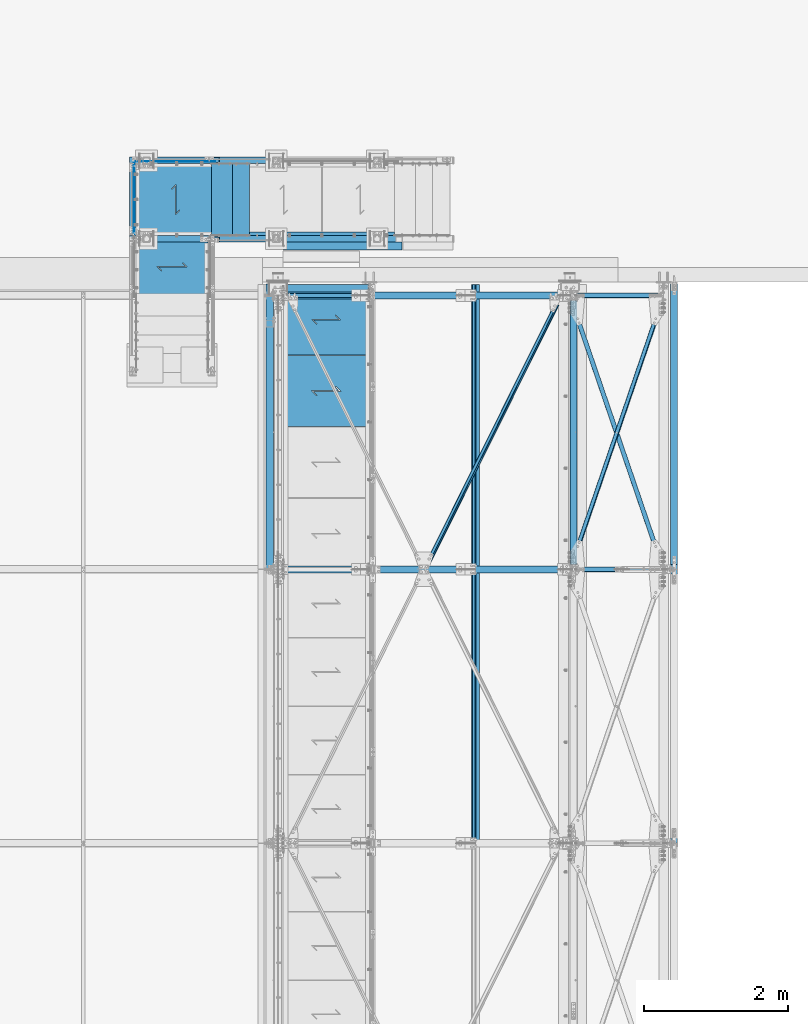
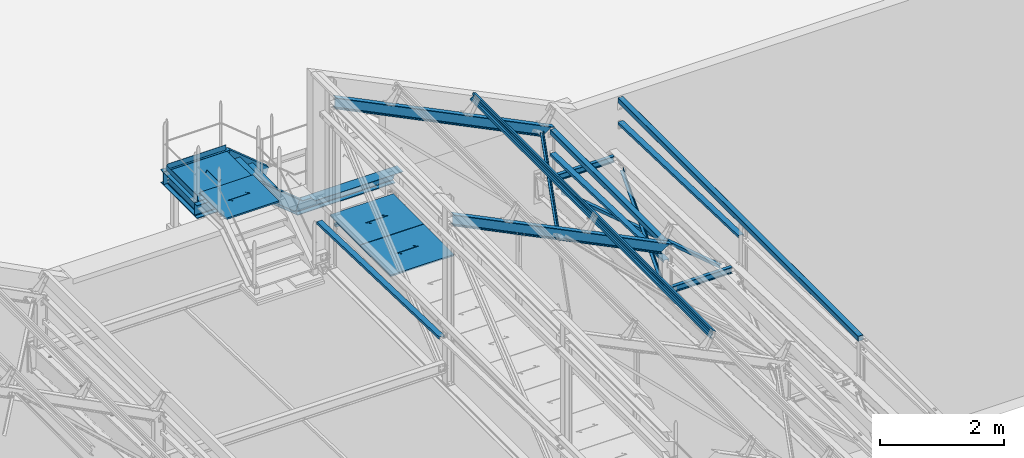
# One storey, part 58 of 362: 26 beams, 4 members, 27 elements without a shape of their own.
"""IFC2X3 building model written with IfcOpenShell, lengths in millimetres."""

from ifc_helpers import new_model, si_unit, frame, origin_with_axes, origin_2d_with_axis, place, context, subcontext, project, spatial, polyline, rectangle, hollow_rectangle, i_section, l_section, u_section, outline, extrude, boolean, clip, halfspace, material, type_object, element, aggregate, save


model = new_model("IFC2X3")

# Units and contexts
model_context = context("Model", 3, precision=1e-05, world=origin_with_axes())
body_context = subcontext(model_context, "Body", "Model", "MODEL_VIEW")
ifc_project = project(units=[si_unit("LENGTHUNIT", "METRE", prefix="MILLI"), si_unit("AREAUNIT", "SQUARE_METRE"), si_unit("VOLUMEUNIT", "CUBIC_METRE"), si_unit("MASSUNIT", "GRAM", prefix="KILO"), si_unit("TIMEUNIT", "SECOND"), si_unit("PLANEANGLEUNIT", "RADIAN"), si_unit("SOLIDANGLEUNIT", "STERADIAN"), si_unit("THERMODYNAMICTEMPERATUREUNIT", "DEGREE_CELSIUS"), si_unit("LUMINOUSINTENSITYUNIT", "LUMEN")], contexts=[model_context])

# Site, building, storey
site_placement = place(None, origin_with_axes())
site = spatial("IfcSite", under=ifc_project, at=site_placement, Name="Undefined", CompositionType="ELEMENT")
building_placement = place(site_placement, origin_with_axes())
building = spatial("IfcBuilding", under=site, at=building_placement, Name="Undefined", CompositionType="ELEMENT")
storey_placement = place(building_placement, origin_with_axes())
storey = spatial("IfcBuildingStorey", under=building, at=storey_placement, Name="Undefined", CompositionType="ELEMENT", Elevation=0.0)

# Assembly, beam
assembly_1_placement = place(storey_placement, origin_with_axes())
assembly_1 = element("IfcElementAssembly", 1, at=assembly_1_placement, inside=storey, Name="CACHE VIDE", AssemblyPlace="NOTDEFINED", PredefinedType="NOTDEFINED")
ifc_material_1 = material(Name="Undefined/S235-E24")
beam_type_1 = type_object("IfcBeamType", Name="PL200*6", PredefinedType="NOTDEFINED")
beam_1_placement = place(assembly_1_placement, frame((36000.0099902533, 15929.9998774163, 8112.9999407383), z_axis=(0.0, -1.0, 0.0), x_axis=(-1.0, 0.0, 0.0)))
beam_1 = element("IfcBeam", 2, at=beam_1_placement, type_object=beam_type_1, material=ifc_material_1, Name="CACHE VIDE", ObjectType="PL200*6", context=body_context, shape_type="SweptSolid", body=[
    extrude(rectangle(XDim=6.0, YDim=200.0, at=origin_2d_with_axis()), frame((1650.0, 0.0, 0.0), z_axis=(-1.0, 0.0, 0.0), x_axis=(0.0, -1.0, 0.0)), (0.0, 0.0, 1.0), 1650.0),
])
aggregate(assembly_1, [beam_1])

assembly_2_placement = place(storey_placement, origin_with_axes())
assembly_2 = element("IfcElementAssembly", 3, at=assembly_2_placement, inside=storey, Name="MAIN COURANTE", AssemblyPlace="NOTDEFINED", PredefinedType="NOTDEFINED")
beam_type_2 = type_object("IfcBeamType", Name="PL100*5", PredefinedType="NOTDEFINED")
beam_2_placement = place(assembly_2_placement, frame((33404.9962475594, 17057.481480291, 8760.00000001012), z_axis=(0.0, 0.0, -1.0), x_axis=(-1.0, 0.0, 0.0)))
beam_2 = element("IfcBeam", 4, at=beam_2_placement, type_object=beam_type_2, material=ifc_material_1, Name="PLINTHE", ObjectType="PL100*5", context=body_context, shape_type="SweptSolid", body=[
    extrude(rectangle(XDim=5.0, YDim=100.0, at=origin_2d_with_axis()), frame((1100.00006264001, 0.0, 0.0), z_axis=(-1.0, 0.0, 0.0), x_axis=(0.0, -1.0, 0.0)), (0.0, 0.0, 1.0), 1100.0),
])
aggregate(assembly_2, [beam_2])

assembly_3_placement = place(storey_placement, origin_with_axes())
assembly_3 = element("IfcElementAssembly", 5, at=assembly_3_placement, inside=storey, Name="MAIN COURANTE", AssemblyPlace="NOTDEFINED", PredefinedType="NOTDEFINED")
beam_3_placement = place(assembly_3_placement, frame((32282.4987221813, 17044.9977309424, 8760.00000001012), z_axis=(0.0, 0.0, -1.0), x_axis=(0.0, -1.0, 0.0)))
beam_3 = element("IfcBeam", 6, at=beam_3_placement, type_object=beam_type_2, material=ifc_material_1, Name="PLINTHE", ObjectType="PL100*5", context=body_context, shape_type="SweptSolid", body=[
    extrude(rectangle(XDim=5.0, YDim=100.0, at=origin_2d_with_axis()), frame((1009.99407492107, 0.0, 0.0), z_axis=(-1.0, 0.0, 0.0), x_axis=(0.0, -1.0, 0.0)), (0.0, 0.0, 1.0), 1009.99),
])
aggregate(assembly_3, [beam_3])

assembly_4_placement = place(storey_placement, origin_with_axes())
assembly_4 = element("IfcElementAssembly", 7, at=assembly_4_placement, inside=storey, Name="PALIER", AssemblyPlace="NOTDEFINED", PredefinedType="NOTDEFINED")
beam_type_3 = type_object("IfcBeamType", Name="PL30*990", PredefinedType="NOTDEFINED")
beam_4_placement = place(assembly_4_placement, frame((33404.9999902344, 16530.0012856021, 8685.0), z_axis=(0.0, 1.0, 0.0), x_axis=(-1.0, 0.0, 0.0)))
beam_4 = element("IfcBeam", 8, at=beam_4_placement, type_object=beam_type_3, material=ifc_material_1, Name="PALIER", ObjectType="PL30*990", context=body_context, shape_type="CSG", body=[
    boolean("DIFFERENCE", extrude(rectangle(XDim=30.0, YDim=990.0, at=origin_2d_with_axis()), frame((1090.0, 0.0, 0.0), z_axis=(-1.0, 0.0, 0.0), x_axis=(0.0, -1.0, 0.0)), (0.0, 0.0, 1.0), 1090.0), extrude(outline(polyline([(0.0, 0.0), (87.0678024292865, -7.27595761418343e-12), (-195.774902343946, 282.842712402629), (-132.842712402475, 282.842712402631), (-132.842712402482, 292.84271240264), (-219.917037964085, 292.84271240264), (62.9256706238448, 10.0000000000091), (-1.81898940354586e-10, 10.0000000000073), (0.0, 0.0)])), frame((488.433762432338, 17.4998126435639, -150.504124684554), z_axis=(0.0, -1.0, 0.0), x_axis=(0.707106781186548, 0.0, -0.707106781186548)), (0.0, 0.0, 1.0), 35.0)),
])
aggregate(assembly_4, [beam_4])

assembly_5_placement = place(storey_placement, origin_with_axes())
assembly_5 = element("IfcElementAssembly", 9, at=assembly_5_placement, inside=storey, Name="PALIER", AssemblyPlace="NOTDEFINED", PredefinedType="NOTDEFINED")
beam_5_placement = place(assembly_5_placement, frame((32809.9938089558, 16020.0036221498, 8865.0), z_axis=(-1.0, 0.0, 0.0), x_axis=(0.0, -1.0, 0.0)))
beam_5 = element("IfcBeam", 10, at=beam_5_placement, type_object=beam_type_3, material=ifc_material_1, Name="PALIER", ObjectType="PL30*990", context=body_context, shape_type="CSG", body=[
    boolean("DIFFERENCE", extrude(rectangle(XDim=30.0, YDim=990.0, at=origin_2d_with_axis()), frame((845.00383109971, 0.0, 0.0), z_axis=(-1.0, 0.0, 0.0), x_axis=(0.0, -1.0, 0.0)), (0.0, 0.0, 1.0), 845.0), extrude(outline(polyline([(0.0, 0.0), (87.0678024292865, -7.27595761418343e-12), (-195.774902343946, 282.842712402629), (-132.842712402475, 282.842712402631), (-132.842712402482, 292.84271240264), (-219.917037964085, 292.84271240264), (62.9256706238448, 10.0000000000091), (-1.81898940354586e-10, 10.0000000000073), (0.0, 0.0)])), frame((365.940460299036, 17.4998126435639, -150.5094572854), z_axis=(0.0, -1.0, 0.0), x_axis=(0.707106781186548, 0.0, -0.707106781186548)), (0.0, 0.0, 1.0), 35.0)),
])
aggregate(assembly_5, [beam_5])

assembly_6_placement = place(storey_placement, origin_with_axes())
assembly_6 = element("IfcElementAssembly", 11, at=assembly_6_placement, inside=storey, Name="SUPPORT", AssemblyPlace="NOTDEFINED", PredefinedType="NOTDEFINED")
beam_type_4 = type_object("IfcBeamType", Name="L50*5", PredefinedType="NOTDEFINED")
beam_6_placement = place(assembly_6_placement, frame((33884.9999903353, 16054.9996684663, 8054.9999407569), z_axis=(0.0, 0.0, -1.0), x_axis=(1.0, 0.0, 0.0)))
beam_6 = element("IfcBeam", 12, at=beam_6_placement, type_object=beam_type_4, material=ifc_material_1, Name="SUPPORT", ObjectType="L50*5", context=body_context, shape_type="SweptSolid", body=[
    extrude(l_section(Depth=50.0, Width=50.0, Thickness=5.0, FilletRadius=7.0, EdgeRadius=3.5, at=origin_2d_with_axis()), frame((2009.99999989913, 0.0, 0.0), z_axis=(-1.0, 0.0, 0.0), x_axis=(0.0, -1.0, 0.0)), (0.0, 0.0, 1.0), 2010.0),
])
aggregate(assembly_6, [beam_6])

assembly_7_placement = place(storey_placement, origin_with_axes())
assembly_7 = element("IfcElementAssembly", 13, at=assembly_7_placement, inside=storey, AssemblyPlace="NOTDEFINED", PredefinedType="NOTDEFINED")
beam_7_placement = place(assembly_7_placement, frame((36317.992690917, 11398.7879109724, 9504.82868291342), z_axis=(-0.78486955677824, 0.484835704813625, 0.385893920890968), x_axis=(0.435090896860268, 0.874605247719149, -0.213919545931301)))
beam_7 = element("IfcBeam", 14, at=beam_7_placement, type_object=beam_type_4, material=ifc_material_1, Name="STABILITE CVT", ObjectType="L50*5", context=body_context, shape_type="Clipping", body=[
    clip(clip(extrude(l_section(Depth=50.0, Width=50.0, Thickness=5.0, FilletRadius=7.0, EdgeRadius=3.5, at=origin_2d_with_axis()), frame((4267.39151026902, 3.51953489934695e-12, -2.36887815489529e-13), z_axis=(-1.0, 0.0, 0.0), x_axis=(0.0, -1.0, 0.0)), (0.0, 0.0, 1.0), 4189.97), halfspace(frame((4208.92631276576, 24.998810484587, 25.0006239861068), z_axis=(-1.0, 0.0, 0.0), x_axis=(0.0, -1.0, 0.0)), True)), halfspace(frame((135.891296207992, 24.9993842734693, 24.9999999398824), z_axis=(-1.0, 0.0, 0.0), x_axis=(0.0, -1.0, 0.0)), False)),
])
aggregate(assembly_7, [beam_7])

# Assembly, member
assembly_8_placement = place(storey_placement, origin_with_axes())
assembly_8 = element("IfcElementAssembly", 15, at=assembly_8_placement, inside=storey, AssemblyPlace="NOTDEFINED", PredefinedType="NOTDEFINED")
ifc_material_2 = material(Name="Undefined/S275-E28")
member_type_1 = type_object("IfcMemberType", Name="UPN260", PredefinedType="NOTDEFINED")
member_1_placement = place(assembly_8_placement, frame((34103.6359782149, 15984.9996684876, 8009.44650543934), z_axis=(-0.63380948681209, 0.0, -0.77348919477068), x_axis=(-0.773488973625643, 0.0, 0.633809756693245)))
member_1 = element("IfcMember", 16, at=member_1_placement, type_object=member_type_1, material=ifc_material_2, Name="LIMON", ObjectType="UPN260", context=body_context, shape_type="Clipping", body=[
    clip(clip(extrude(u_section(Depth=260.0, FlangeWidth=90.0, WebThickness=10.0, FlangeThickness=14.0, FilletRadius=14.0, EdgeRadius=7.0, FlangeSlope=0.0798299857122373, at=origin_2d_with_axis()), frame((1123.44862759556, -1.81898940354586e-12, 0.0), z_axis=(-1.0, 0.0, 0.0), x_axis=(0.0, -1.0, 0.0)), (0.0, 0.0, 1.0), 1408.94), halfspace(frame((930.878776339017, 45.006178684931, -130.000000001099), z_axis=(0.941671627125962, 0.0, 0.336533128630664), x_axis=(0.0, -1.0, 0.0)), False)), halfspace(frame((-1.09252141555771e-07, 44.9999999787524, -129.999999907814), z_axis=(-0.941673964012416, 0.0, -0.336526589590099), x_axis=(0.0, 1.0, 0.0)), False)),
])

assembly_9_placement = place(storey_placement, origin_with_axes())
assembly_9 = element("IfcElementAssembly", 17, at=assembly_9_placement, inside=storey, AssemblyPlace="NOTDEFINED", PredefinedType="NOTDEFINED")
member_2_placement = place(assembly_9_placement, frame((33383.6110682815, 17074.9958074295, 8599.44642100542), z_axis=(-0.633810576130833, -1.31300000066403e-06, -0.773488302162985), x_axis=(0.773488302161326, 1.60200000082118e-06, -0.633810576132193)))
member_2 = element("IfcMember", 18, at=member_2_placement, type_object=member_type_1, material=ifc_material_2, Name="LIMON", ObjectType="UPN260", context=body_context, shape_type="Clipping", body=[
    clip(clip(extrude(u_section(Depth=260.0, FlangeWidth=90.0, WebThickness=10.0, FlangeThickness=14.0, FilletRadius=14.0, EdgeRadius=7.0, FlangeSlope=0.0798299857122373, at=origin_2d_with_axis()), frame((1216.36733735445, -2.10852457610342e-19, -3.63797880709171e-12), z_axis=(-1.0, 0.0, 0.0), x_axis=(0.0, -1.0, 0.0)), (0.0, 0.0, 1.0), 1408.94), halfspace(frame((930.877174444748, 1044.99780092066, -129.999997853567), z_axis=(0.941673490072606, 1.95042208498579e-06, -0.336527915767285), x_axis=(1.60200000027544e-06, -0.999999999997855, -1.31300000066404e-06)), False)), halfspace(frame((92.9171561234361, 1044.99611712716, 130.001182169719), z_axis=(-0.941671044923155, -1.95042715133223e-06, 0.336534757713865), x_axis=(1.60200000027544e-06, -0.999999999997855, -1.31300000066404e-06)), False)),
])

# Beam
beam_type_5 = type_object("IfcBeamType", Name="UPN260", PredefinedType="NOTDEFINED")
beam_8_placement = place(assembly_8_placement, frame((33466.0064595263, 15985.0036039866, 8570.00016502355), z_axis=(0.0, 0.0, -1.0), x_axis=(-0.999999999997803, 2.09199999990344e-06, -1.31999999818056e-07)))
beam_8 = element("IfcBeam", 19, at=beam_8_placement, type_object=beam_type_5, material=ifc_material_2, Name="LIMON", ObjectType="UPN260", context=body_context, shape_type="Clipping", body=[
    clip(extrude(u_section(Depth=260.0, FlangeWidth=90.0, WebThickness=10.0, FlangeThickness=14.0, FilletRadius=14.0, EdgeRadius=7.0, FlangeSlope=0.0798299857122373, at=origin_2d_with_axis()), frame((1246.0141922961, -3.56254158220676e-20, -1.81898940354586e-12), z_axis=(-1.0, 0.0, 0.0), x_axis=(0.0, -1.0, 0.0)), (0.0, 0.0, 1.0), 1246.48), halfspace(frame((0.00209211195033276, 1044.9963096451, -129.999999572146), z_axis=(-0.941670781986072, 1.96997527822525e-06, 0.336535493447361), x_axis=(0.336535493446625, -7.04032252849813e-07, 0.941670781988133)), False)),
])

beam_9_placement = place(assembly_9_placement, frame((32219.9922672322, 17074.9933718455, 8570.00000000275), z_axis=(0.0, 0.0, -1.0), x_axis=(0.999999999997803, 2.09200000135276e-06, 1.31999999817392e-07)))
beam_9 = element("IfcBeam", 20, at=beam_9_placement, type_object=beam_type_5, material=ifc_material_2, Name="LIMON", ObjectType="UPN260", context=body_context, shape_type="Clipping", body=[
    clip(extrude(u_section(Depth=260.0, FlangeWidth=90.0, WebThickness=10.0, FlangeThickness=14.0, FilletRadius=14.0, EdgeRadius=7.0, FlangeSlope=0.0798299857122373, at=origin_2d_with_axis()), frame((1246.47920182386, 3.56387423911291e-20, -1.81898940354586e-12), z_axis=(-1.0, 0.0, 0.0), x_axis=(0.0, -1.0, 0.0)), (0.0, 0.0, 1.0), 1246.48), halfspace(frame((1246.01210018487, 1044.99631003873, -130.000000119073), z_axis=(0.941670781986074, 1.96997527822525e-06, 0.336535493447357), x_axis=(1.83599999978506e-06, -0.999999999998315, 0.0)), False)),
])

aggregate(assembly_9, [member_2, beam_9])

# Assembly, beam
assembly_10_placement = place(storey_placement, origin_with_axes())
assembly_10 = element("IfcElementAssembly", 21, at=assembly_10_placement, inside=storey, AssemblyPlace="NOTDEFINED", PredefinedType="NOTDEFINED")
beam_10_placement = place(assembly_10_placement, frame((32265.0061849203, 16034.9999492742, 8570.0), z_axis=(0.0, 0.0, -1.0), x_axis=(-6.26399999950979e-06, 0.999999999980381, -3.63797880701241e-15)))
beam_10 = element("IfcBeam", 22, at=beam_10_placement, type_object=beam_type_5, material=ifc_material_2, Name="LIMON", ObjectType="UPN260", context=body_context, shape_type="SweptSolid", body=[
    extrude(u_section(Depth=260.0, FlangeWidth=90.0, WebThickness=10.0, FlangeThickness=14.0, FilletRadius=14.0, EdgeRadius=7.0, FlangeSlope=0.0798299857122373, at=origin_2d_with_axis()), frame((989.993334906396, 8.38556972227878e-19, 1.81898940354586e-12), z_axis=(-1.0, 0.0, 0.0), x_axis=(0.0, -1.0, 0.0)), (0.0, 0.0, 1.0), 989.99),
])
aggregate(assembly_10, [beam_10])

# Beam
beam_11_placement = place(assembly_8_placement, frame((36004.9999788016, 15984.9996684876, 7979.99994075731), z_axis=(0.0, 0.0, -1.0), x_axis=(-1.0, 0.0, 0.0)))
beam_11 = element("IfcBeam", 23, at=beam_11_placement, type_object=beam_type_5, material=ifc_material_2, Name="LIMON", ObjectType="UPN260", context=body_context, shape_type="Clipping", body=[
    clip(clip(extrude(u_section(Depth=260.0, FlangeWidth=90.0, WebThickness=10.0, FlangeThickness=14.0, FilletRadius=14.0, EdgeRadius=7.0, FlangeSlope=0.0798299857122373, at=origin_2d_with_axis()), frame((1959.89175727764, 0.0, 0.0), z_axis=(-1.0, 0.0, 0.0), x_axis=(0.0, -1.0, 0.0)), (0.0, 0.0, 1.0), 2007.29), halfspace(frame((1818.97096871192, 44.9999999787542, -130.000099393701), z_axis=(-0.941670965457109, 0.0, 0.336534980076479), x_axis=(0.0, 1.0, 0.0)), True)), halfspace(frame((-1.09252141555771e-07, 44.9999999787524, -129.999999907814), z_axis=(-0.940271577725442, 0.0, 0.340425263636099), x_axis=(0.0, 1.0, 0.0)), False)),
])

aggregate(assembly_8, [beam_8, member_1, beam_11])

# Assembly, beam
assembly_11_placement = place(storey_placement, origin_with_axes())
assembly_11 = element("IfcElementAssembly", 24, at=assembly_11_placement, inside=storey, Name="MARCHE", AssemblyPlace="NOTDEFINED", PredefinedType="NOTDEFINED")
beam_type_6 = type_object("IfcBeamType", Name="PL30*994", PredefinedType="NOTDEFINED")
beam_12_placement = place(assembly_11_placement, frame((33884.9999902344, 16530.0012856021, 8291.6699407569), z_axis=(0.0, 1.0, 0.0), x_axis=(-1.0, 0.0, 0.0)))
beam_12 = element("IfcBeam", 25, at=beam_12_placement, type_object=beam_type_6, material=ifc_material_1, Name="MARCHE", ObjectType="PL30*994", context=body_context, shape_type="SweptSolid", body=[
    extrude(rectangle(XDim=30.0, YDim=994.0, at=origin_2d_with_axis()), frame((290.0, 0.0, 0.0), z_axis=(-1.0, 0.0, 0.0), x_axis=(0.0, -1.0, 0.0)), (0.0, 0.0, 1.0), 290.0),
])
aggregate(assembly_11, [beam_12])

assembly_12_placement = place(storey_placement, origin_with_axes())
assembly_12 = element("IfcElementAssembly", 26, at=assembly_12_placement, inside=storey, Name="MARCHE", AssemblyPlace="NOTDEFINED", PredefinedType="NOTDEFINED")
beam_13_placement = place(assembly_12_placement, frame((33644.9999902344, 16530.0012856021, 8488.3299407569), z_axis=(0.0, 1.0, 0.0), x_axis=(-1.0, 0.0, 0.0)))
beam_13 = element("IfcBeam", 27, at=beam_13_placement, type_object=beam_type_6, material=ifc_material_1, Name="MARCHE", ObjectType="PL30*994", context=body_context, shape_type="SweptSolid", body=[
    extrude(rectangle(XDim=30.0, YDim=994.0, at=origin_2d_with_axis()), frame((290.0, 0.0, 0.0), z_axis=(-1.0, 0.0, 0.0), x_axis=(0.0, -1.0, 0.0)), (0.0, 0.0, 1.0), 290.0),
])
aggregate(assembly_12, [beam_13])

assembly_13_placement = place(storey_placement, origin_with_axes())
assembly_13 = element("IfcElementAssembly", 28, at=assembly_13_placement, inside=storey, AssemblyPlace="NOTDEFINED", PredefinedType="NOTDEFINED")
beam_type_7 = type_object("IfcBeamType", Name="L60*6", PredefinedType="NOTDEFINED")
beam_14_placement = place(assembly_13_placement, frame((39627.1613878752, 11396.013468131, 7535.78531913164), z_axis=(0.946212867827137, 0.323385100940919, -0.0101629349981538), x_axis=(-0.323544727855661, 0.945746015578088, -0.0297200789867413)))
beam_14 = element("IfcBeam", 29, at=beam_14_placement, type_object=beam_type_7, material=ifc_material_1, Name="STABILITE CVT", ObjectType="L60*6", context=body_context, shape_type="Clipping", body=[
    clip(clip(extrude(l_section(Depth=60.0, Width=60.0, Thickness=6.0, FilletRadius=8.0, EdgeRadius=4.0, at=origin_2d_with_axis()), frame((3750.95250364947, 9.09494701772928e-13, -6.36452768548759e-14), z_axis=(-1.0, 0.0, 0.0), x_axis=(0.0, -1.0, 0.0)), (0.0, 0.0, 1.0), 3483.91), halfspace(frame((3710.26424680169, 59.9981500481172, -29.9999902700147), z_axis=(-0.999999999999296, 1.18625956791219e-06, 6.35888351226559e-12), x_axis=(1.69800000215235e-06, 0.999999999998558, 0.0)), True)), halfspace(frame((307.727647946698, 60.0021863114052, 29.9999854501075), z_axis=(0.999999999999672, -6.66011674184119e-07, -4.61008081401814e-07), x_axis=(1.69800000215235e-06, 0.999999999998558, 0.0)), True)),
])
aggregate(assembly_13, [beam_14])

assembly_14_placement = place(storey_placement, origin_with_axes())
assembly_14 = element("IfcElementAssembly", 30, at=assembly_14_placement, inside=storey, AssemblyPlace="NOTDEFINED", PredefinedType="NOTDEFINED")
beam_15_placement = place(assembly_14_placement, frame((38332.8386386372, 11398.0865719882, 7601.7526957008), z_axis=(-0.946212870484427, 0.323385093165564, -0.0101629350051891), x_axis=(0.323544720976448, 0.945746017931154, -0.0297200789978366)))
beam_15 = element("IfcBeam", 31, at=beam_15_placement, type_object=beam_type_7, material=ifc_material_1, Name="STABILITE CVT", ObjectType="L60*6", context=body_context, shape_type="Clipping", body=[
    clip(clip(extrude(l_section(Depth=60.0, Width=60.0, Thickness=6.0, FilletRadius=8.0, EdgeRadius=4.0, at=origin_2d_with_axis()), frame((3749.34878037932, -9.22502868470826e-13, -1.52236200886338e-13), z_axis=(-1.0, 0.0, 0.0), x_axis=(0.0, -1.0, 0.0)), (0.0, 0.0, 1.0), 3480.71), halfspace(frame((3710.2642422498, -59.9981629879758, -29.9999664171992), z_axis=(0.999999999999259, 1.20900000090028e-06, -1.42999999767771e-07), x_axis=(1.18632239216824e-06, -0.999999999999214, 4.0546250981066e-07)), False)), halfspace(frame((307.727643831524, -60.0021751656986, 30.0000340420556), z_axis=(-0.99999999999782, -2.08799999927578e-06, 0.0), x_axis=(1.18632239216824e-06, -0.999999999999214, 4.0546250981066e-07)), False)),
])
aggregate(assembly_14, [beam_15])

assembly_15_placement = place(storey_placement, origin_with_axes())
assembly_15 = element("IfcElementAssembly", 32, at=assembly_15_placement, inside=storey, Name="LISSE", AssemblyPlace="NOTDEFINED", PredefinedType="NOTDEFINED")
beam_type_8 = type_object("IfcBeamType", Name="UPF-100*50*4", PredefinedType="NOTDEFINED")
beam_16_placement = place(assembly_15_placement, frame((34163.5001162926, 11402.9585391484, 8171.89575101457), z_axis=(1.0, 0.0, 0.0), x_axis=(0.0, 0.99950644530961, -0.0314144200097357)))
beam_16 = element("IfcBeam", 33, at=beam_16_placement, type_object=beam_type_8, material=ifc_material_1, Name="LISSE CONTREBARDAGE", ObjectType="UPF-100*50*4", context=body_context, shape_type="Clipping", body=[
    clip(extrude(u_section(Depth=100.0, FlangeWidth=50.0, WebThickness=4.0, FlangeThickness=4.0, at=origin_2d_with_axis()), frame((3989.01014791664, 0.0, 0.0), z_axis=(-1.0, 0.0, 0.0), x_axis=(0.0, -1.0, 0.0)), (0.0, 0.0, 1.0), 3989.01), halfspace(frame((3959.78106204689, -24.99999999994, -50.0), z_axis=(0.999506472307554, 0.0314135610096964, 0.0), x_axis=(0.0, 0.0, 1.0)), False)),
])
aggregate(assembly_15, [beam_16])

assembly_16_placement = place(storey_placement, origin_with_axes())
assembly_16 = element("IfcElementAssembly", 34, at=assembly_16_placement, inside=storey, Name="LISSE", AssemblyPlace="NOTDEFINED", PredefinedType="NOTDEFINED")
beam_17_placement = place(assembly_16_placement, frame((38380.0000000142, 11400.0, 8171.98873515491), z_axis=(1.0, 0.0, 0.0), x_axis=(0.0, 0.99950644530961, -0.0314144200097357)))
beam_17 = element("IfcBeam", 35, at=beam_17_placement, type_object=beam_type_8, material=ifc_material_1, Name="LISSE CONTREBARDAGE", ObjectType="UPF-100*50*4", context=body_context, shape_type="Clipping", body=[
    clip(clip(extrude(u_section(Depth=100.0, FlangeWidth=50.0, WebThickness=4.0, FlangeThickness=4.0, at=origin_2d_with_axis()), frame((3738.43140425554, 0.0, 0.0), z_axis=(-1.0, 0.0, 0.0), x_axis=(0.0, -1.0, 0.0)), (0.0, 0.0, 1.0), 3674.99), halfspace(frame((3734.02168286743, 89.8070816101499, 49.9999999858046), z_axis=(-0.999506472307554, -0.0314135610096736, 0.0), x_axis=(0.0, 0.0, 1.0)), True)), halfspace(frame((63.1144992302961, 61.0134432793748, 49.9999999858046), z_axis=(-0.999506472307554, -0.0314135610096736, 0.0), x_axis=(0.0, 0.0, 1.0)), False)),
])
aggregate(assembly_16, [beam_17])

assembly_17_placement = place(storey_placement, origin_with_axes())
assembly_17 = element("IfcElementAssembly", 36, at=assembly_17_placement, inside=storey, Name="LISSE", AssemblyPlace="NOTDEFINED", PredefinedType="NOTDEFINED")
beam_18_placement = place(assembly_17_placement, frame((39775.0000000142, 11399.6436312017, 8171.98873515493), z_axis=(1.0, 0.0, 0.0), x_axis=(3.14103090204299e-11, 0.999506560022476, -0.0314107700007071)))
beam_18 = element("IfcBeam", 37, at=beam_18_placement, type_object=beam_type_8, material=ifc_material_1, Name="LISSE CONTREBARDAGE", ObjectType="UPF-100*50*4", context=body_context, shape_type="Clipping", body=[
    clip(clip(extrude(u_section(Depth=100.0, FlangeWidth=50.0, WebThickness=4.0, FlangeThickness=4.0, at=origin_2d_with_axis()), frame((3964.0890563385, -2.75063933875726e-14, 0.0), z_axis=(-1.0, 0.0, 0.0), x_axis=(0.0, -1.0, 0.0)), (0.0, 0.0, 1.0), 3900.38), halfspace(frame((3960.76719072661, 47.1525613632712, -77.5000000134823), z_axis=(-0.999390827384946, -0.0348994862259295, 0.0), x_axis=(0.0, 0.0, 1.0)), True)), halfspace(frame((63.4708632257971, 61.0244601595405, 49.9999999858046), z_axis=(-0.999506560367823, -0.0314107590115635, 0.0), x_axis=(0.0, 0.0, 1.0)), False)),
])
aggregate(assembly_17, [beam_18])

assembly_18_placement = place(storey_placement, origin_with_axes())
assembly_18 = element("IfcElementAssembly", 38, at=assembly_18_placement, inside=storey, Name="LISSE", AssemblyPlace="NOTDEFINED", PredefinedType="NOTDEFINED")
beam_type_9 = type_object("IfcBeamType", Name="TUBE-C-100*100*4", PredefinedType="NOTDEFINED")
beam_19_placement = place(assembly_18_placement, frame((39775.0, 7605.0, 8500.0), z_axis=(0.0, 0.0, 1.0), x_axis=(0.0, 1.0, 0.0)))
beam_19 = element("IfcBeam", 39, at=beam_19_placement, type_object=beam_type_9, material=ifc_material_1, Name="LISSE ACROTERE", ObjectType="TUBE-C-100*100*4", context=body_context, shape_type="SweptSolid", body=[
    extrude(hollow_rectangle(XDim=100.0, YDim=100.0, WallThickness=4.0, InnerFilletRadius=4.0, OuterFilletRadius=8.0, at=origin_2d_with_axis()), frame((7755.0, 0.0, 0.0), z_axis=(-1.0, 0.0, 0.0), x_axis=(0.0, -1.0, 0.0)), (0.0, 0.0, 1.0), 7755.0),
])
aggregate(assembly_18, [beam_19])

assembly_19_placement = place(storey_placement, origin_with_axes())
assembly_19 = element("IfcElementAssembly", 40, at=assembly_19_placement, inside=storey, Name="LISSE", AssemblyPlace="NOTDEFINED", PredefinedType="NOTDEFINED")
beam_20_placement = place(assembly_19_placement, frame((38380.0, 11470.0, 8500.0), z_axis=(0.0, 0.0, 1.0), x_axis=(0.0, 1.0, 0.0)))
beam_20 = element("IfcBeam", 41, at=beam_20_placement, type_object=beam_type_9, material=ifc_material_1, Name="LISSE ACROTERE", ObjectType="TUBE-C-100*100*4", context=body_context, shape_type="SweptSolid", body=[
    extrude(hollow_rectangle(XDim=100.0, YDim=100.0, WallThickness=4.0, InnerFilletRadius=4.0, OuterFilletRadius=8.0, at=origin_2d_with_axis()), frame((3660.0, 0.0, 0.0), z_axis=(-1.0, 0.0, 0.0), x_axis=(0.0, -1.0, 0.0)), (0.0, 0.0, 1.0), 3660.0),
])
aggregate(assembly_19, [beam_20])

assembly_20_placement = place(storey_placement, origin_with_axes())
assembly_20 = element("IfcElementAssembly", 42, at=assembly_20_placement, inside=storey, AssemblyPlace="NOTDEFINED", PredefinedType="NOTDEFINED")
beam_type_10 = type_object("IfcBeamType", Name="TOLE30*980", PredefinedType="NOTDEFINED")
beam_21_placement = place(assembly_20_placement, frame((35536.4915949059, 15355.0003049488, 8115.0), z_axis=(0.0, 0.0, 1.0), x_axis=(-1.0, 0.0, 0.0)))
beam_21 = element("IfcBeam", 43, at=beam_21_placement, type_object=beam_type_10, material=ifc_material_1, Name="CAILLEBOTIS", ObjectType="TOLE30*980", context=body_context, shape_type="CSG", body=[
    boolean("DIFFERENCE", extrude(outline(polyline([(0.0, 0.0), (1179.99169921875, 0.0), (1179.99169921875, 980.0), (-9.39995516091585e-07, 980.0), (0.0, 0.0)])), frame((0.0, 0.0, -15.0), z_axis=(0.0, 0.0, 1.0), x_axis=(1.0, 0.0, 0.0)), (0.0, 0.0, 1.0), 30.0), extrude(outline(polyline([(0.0, 0.0), (9.99999999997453, 6.91215973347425e-11), (10.0000000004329, 75.8578643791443), (282.842712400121, -196.984848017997), (282.842712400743, -96.9848480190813), (272.842712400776, -96.9848480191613), (272.842712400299, -172.842712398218), (0.0, 100.0), (0.0, 0.0)])), frame((724.286946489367, 555.710676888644, -17.5), z_axis=(0.0, 0.0, 1.0), x_axis=(-0.707106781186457, -0.707106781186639, 0.0)), (0.0, 0.0, 1.0), 35.0)),
])
aggregate(assembly_20, [beam_21])

assembly_21_placement = place(storey_placement, origin_with_axes())
assembly_21 = element("IfcElementAssembly", 44, at=assembly_21_placement, inside=storey, AssemblyPlace="NOTDEFINED", PredefinedType="NOTDEFINED")
beam_22_placement = place(assembly_21_placement, frame((35536.4915949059, 14365.0003097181, 8115.0), z_axis=(0.0, 0.0, 1.0), x_axis=(-1.0, 0.0, 0.0)))
beam_22 = element("IfcBeam", 45, at=beam_22_placement, type_object=beam_type_10, material=ifc_material_1, Name="CAILLEBOTIS", ObjectType="TOLE30*980", context=body_context, shape_type="CSG", body=[
    boolean("DIFFERENCE", extrude(outline(polyline([(0.0, 0.0), (1179.99169921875, 0.0), (1179.99169921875, 980.0), (-9.39995516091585e-07, 980.0), (0.0, 0.0)])), frame((0.0, 0.0, -15.0), z_axis=(0.0, 0.0, 1.0), x_axis=(1.0, 0.0, 0.0)), (0.0, 0.0, 1.0), 30.0), extrude(outline(polyline([(0.0, 0.0), (9.99999999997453, 6.91215973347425e-11), (10.0000000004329, 75.8578643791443), (282.842712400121, -196.984848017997), (282.842712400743, -96.9848480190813), (272.842712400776, -96.9848480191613), (272.842712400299, -172.842712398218), (0.0, 100.0), (0.0, 0.0)])), frame((724.286946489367, 555.710676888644, -17.5), z_axis=(0.0, 0.0, 1.0), x_axis=(-0.707106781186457, -0.707106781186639, 0.0)), (0.0, 0.0, 1.0), 35.0)),
])
aggregate(assembly_21, [beam_22])

assembly_22_placement = place(storey_placement, origin_with_axes())
assembly_22 = element("IfcElementAssembly", 46, at=assembly_22_placement, inside=storey, Name="PANNE SHED", AssemblyPlace="NOTDEFINED", PredefinedType="NOTDEFINED")
beam_type_11 = type_object("IfcBeamType", Name="B140/150", PredefinedType="NOTDEFINED")
beam_23_placement = place(assembly_22_placement, frame((37020.1555043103, 7605.00007961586, 9532.89989901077), z_axis=(0.44122107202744, 0.0, 0.89739844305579), x_axis=(0.0, 1.0, 0.0)))
beam_23 = element("IfcBeam", 47, at=beam_23_placement, type_object=beam_type_11, material=ifc_material_1, Name="PANNE SHED", ObjectType="B140/150", context=body_context, shape_type="SweptSolid", body=[
    extrude(outline(polyline([(-27.9999999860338, 36.0000000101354), (-27.999999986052, 70.0000000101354), (28.0000000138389, 70.0000000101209), (28.0000000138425, 58.0000000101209), (26.5000000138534, 58.0000000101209), (26.5000000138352, 68.5000000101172), (-26.4999999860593, 68.5000000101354), (-26.4999999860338, 36.7000007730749), (-1.49999998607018, 15.6999998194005), (-1.49999998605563, -15.6999997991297), (-26.4999999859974, -36.7000007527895), (-26.4999999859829, -68.49999998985), (26.5000000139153, -68.4999999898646), (26.500000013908, -57.9999999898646), (28.0000000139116, -57.9999999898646), (28.0000000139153, -69.9999999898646), (-27.9999999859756, -69.99999998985), (-27.9999999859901, -35.99999998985), (-2.99999998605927, -14.9999999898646), (-2.9999999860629, 15.0000000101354), (-27.9999999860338, 36.0000000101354)])), frame((7750.00000000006, -3.63797880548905e-12, 0.0), z_axis=(-1.0, 0.0, 0.0), x_axis=(0.0, -1.0, 0.0)), (0.0, 0.0, 1.0), 7750.0),
])
aggregate(assembly_22, [beam_23])

assembly_23_placement = place(storey_placement, origin_with_axes())
assembly_23 = element("IfcElementAssembly", 48, at=assembly_23_placement, inside=storey, AssemblyPlace="NOTDEFINED", PredefinedType="NOTDEFINED")
beam_type_12 = type_object("IfcBeamType", Name="TUBE-C-60*60*3", PredefinedType="NOTDEFINED")
beam_24_placement = place(assembly_23_placement, frame((34357.991943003, 15200.0, 8015.0), z_axis=(0.0, -1.0, 0.0), x_axis=(1.0, 0.0, 0.0)))
beam_24 = element("IfcBeam", 49, at=beam_24_placement, type_object=beam_type_12, material=ifc_material_1, Name="SOLIVE", ObjectType="TUBE-C-60*60*3", context=body_context, shape_type="SweptSolid", body=[
    extrude(hollow_rectangle(XDim=60.0, YDim=60.0, WallThickness=3.0, InnerFilletRadius=3.0, OuterFilletRadius=6.0, at=origin_2d_with_axis()), frame((1181.99977105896, 0.0, 0.0), z_axis=(-1.0, 0.0, 0.0), x_axis=(0.0, -1.0, 0.0)), (0.0, 0.0, 1.0), 1182.0),
])
aggregate(assembly_23, [beam_24])

assembly_24_placement = place(storey_placement, origin_with_axes())
assembly_24 = element("IfcElementAssembly", 50, at=assembly_24_placement, inside=storey, AssemblyPlace="NOTDEFINED", PredefinedType="NOTDEFINED")
beam_type_13 = type_object("IfcBeamType", Name="IPE120", PredefinedType="NOTDEFINED")
beam_25_placement = place(assembly_24_placement, frame((38429.9999991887, 15199.9999999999, 7512.29105498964), z_axis=(7.58071938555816e-11, 0.0314107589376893, 0.999506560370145), x_axis=(1.0, 0.0, 0.0)))
beam_25 = element("IfcBeam", 51, at=beam_25_placement, type_object=beam_type_13, material=ifc_material_2, Name="PANNE", ObjectType="IPE120", context=body_context, shape_type="SweptSolid", body=[
    extrude(i_section(OverallWidth=64.0, OverallDepth=120.0, WebThickness=4.400000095, FlangeThickness=6.300000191, FilletRadius=7.0, at=origin_2d_with_axis()), frame((1125.00000000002, 0.0, 0.0), z_axis=(-1.0, 0.0, 0.0), x_axis=(0.0, -1.0, 0.0)), (0.0, 0.0, 1.0), 1125.0),
])
aggregate(assembly_24, [beam_25])

assembly_25_placement = place(storey_placement, origin_with_axes())
assembly_25 = element("IfcElementAssembly", 52, at=assembly_25_placement, inside=storey, AssemblyPlace="NOTDEFINED", PredefinedType="NOTDEFINED")
beam_26_placement = place(assembly_25_placement, frame((38430.0, 11399.9999999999, 7631.71089231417), z_axis=(7.58071938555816e-11, 0.0314107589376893, 0.999506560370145), x_axis=(1.0, 0.0, 0.0)))
beam_26 = element("IfcBeam", 53, at=beam_26_placement, type_object=beam_type_13, material=ifc_material_2, Name="PANNE", ObjectType="IPE120", context=body_context, shape_type="SweptSolid", body=[
    extrude(i_section(OverallWidth=64.0, OverallDepth=120.0, WebThickness=4.400000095, FlangeThickness=6.300000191, FilletRadius=7.0, at=origin_2d_with_axis()), frame((1125.00000000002, 0.0, 0.0), z_axis=(-1.0, 0.0, 0.0), x_axis=(0.0, -1.0, 0.0)), (0.0, 0.0, 1.0), 1125.0),
])
aggregate(assembly_25, [beam_26])

# Assembly, member
assembly_26_placement = place(storey_placement, origin_with_axes())
assembly_26 = element("IfcElementAssembly", 54, at=assembly_26_placement, inside=storey, Name="TRAVERSE SHED", AssemblyPlace="NOTDEFINED", PredefinedType="NOTDEFINED")
member_type_2 = type_object("IfcMemberType", Name="IPE200", PredefinedType="NOTDEFINED")
member_3_placement = place(assembly_26_placement, frame((34305.8779065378, 15199.9999999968, 10466.2601489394), z_axis=(0.44122107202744, 0.0, 0.89739844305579), x_axis=(0.897398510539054, 0.0, -0.44122093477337)))
member_3 = element("IfcMember", 55, at=member_3_placement, type_object=member_type_2, material=ifc_material_2, Name="TRAVERSE SHED", ObjectType="IPE200", context=body_context, shape_type="Clipping", body=[
    clip(clip(extrude(i_section(OverallWidth=100.0, OverallDepth=200.0, WebThickness=5.599999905, FlangeThickness=8.5, FilletRadius=12.0, at=origin_2d_with_axis()), frame((4652.25219148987, 0.0, 0.0), z_axis=(-1.0, 0.0, 0.0), x_axis=(0.0, -1.0, 0.0)), (0.0, 0.0, 1.0), 4763.89), halfspace(frame((4421.9420250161, -15199.9999999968, -100.0), z_axis=(0.848887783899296, 0.0, -0.528573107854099), x_axis=(0.0, -1.0, 0.0)), False)), halfspace(frame((5.83309030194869, 3.19837843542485e-09, 102.867936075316), z_axis=(-0.89739851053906, 0.0, -0.44122093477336), x_axis=(0.0, -1.0, 0.0)), False)),
])
aggregate(assembly_26, [member_3])

assembly_27_placement = place(storey_placement, origin_with_axes())
assembly_27 = element("IfcElementAssembly", 56, at=assembly_27_placement, inside=storey, Name="TRAVERSE SHED", AssemblyPlace="NOTDEFINED", PredefinedType="NOTDEFINED")
member_4_placement = place(assembly_27_placement, frame((34305.8779065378, 11399.9999999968, 10466.2601489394), z_axis=(0.44122107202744, 0.0, 0.89739844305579), x_axis=(0.897398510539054, 0.0, -0.44122093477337)))
member_4 = element("IfcMember", 57, at=member_4_placement, type_object=member_type_2, material=ifc_material_2, Name="TRAVERSE SHED", ObjectType="IPE200", context=body_context, shape_type="Clipping", body=[
    clip(clip(extrude(i_section(OverallWidth=100.0, OverallDepth=200.0, WebThickness=5.599999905, FlangeThickness=8.5, FilletRadius=12.0, at=origin_2d_with_axis()), frame((4652.25219148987, 0.0, 0.0), z_axis=(-1.0, 0.0, 0.0), x_axis=(0.0, -1.0, 0.0)), (0.0, 0.0, 1.0), 4763.89), halfspace(frame((4421.9420250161, -11399.9999999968, -100.0), z_axis=(0.848887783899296, 0.0, -0.528573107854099), x_axis=(0.0, -1.0, 0.0)), False)), halfspace(frame((5.83309030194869, 3.19837843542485e-09, 102.867936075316), z_axis=(-0.89739851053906, 0.0, -0.44122093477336), x_axis=(0.0, -1.0, 0.0)), False)),
])
aggregate(assembly_27, [member_4])

save(model, "model.ifc")
